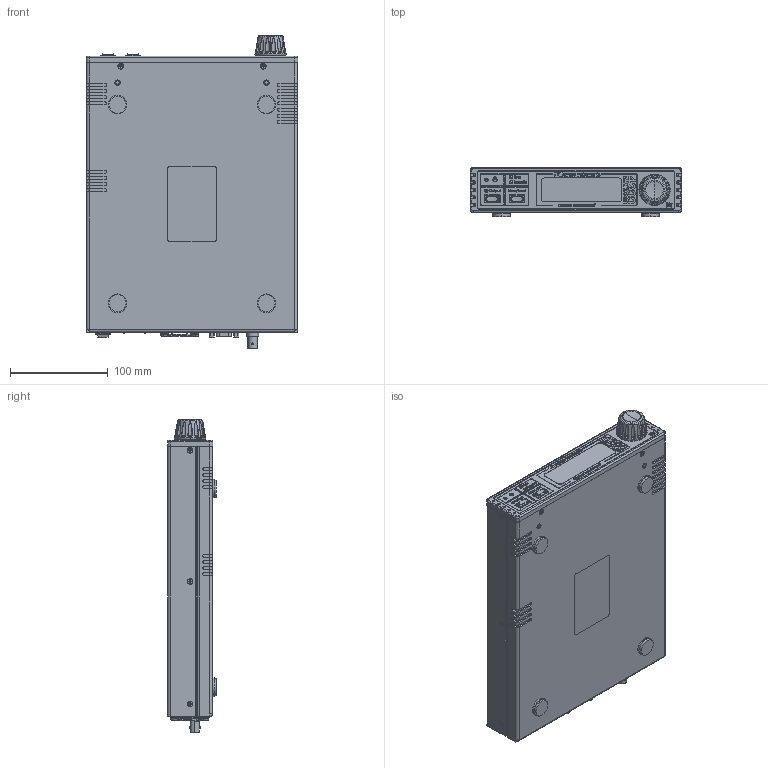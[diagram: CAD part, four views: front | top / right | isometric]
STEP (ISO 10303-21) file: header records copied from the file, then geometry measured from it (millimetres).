
FILE_DESCRIPTION (( 'STEP AP214' ), '1' );
FILE_NAME ('Step 7 - 42XX TLA.STEP', '2019-03-07T22:06:25', ( '' ), ( '' ), 'SwSTEP 2.0', 'SolidWorks 2018', '' );
FILE_SCHEMA (( 'AUTOMOTIVE_DESIGN' ));
Length unit declared in the file: inch
Products named in the file (1): Step 7 - 42XX TLA
Bounding box: 216.41 x 50.04 x 320.27 mm (x, y, z)
Volume: 2772709.3 mm3; surface area: 190407.2 mm2
Topology: 6 solids, 6 shells, 3880 faces, 10111 edges, 6538 vertices
Faces by surface type: plane 2034, bspline 944, cylinder 527, cone 150, torus 141, sphere 84
Entity records: 217307 total; most frequent: CARTESIAN_POINT 77855, ORIENTED_EDGE 20082, DIRECTION 15289, EDGE_CURVE 10041, VERTEX_POINT 6530, LINE 6129, VECTOR 6129, AXIS2_PLACEMENT_3D 4580
